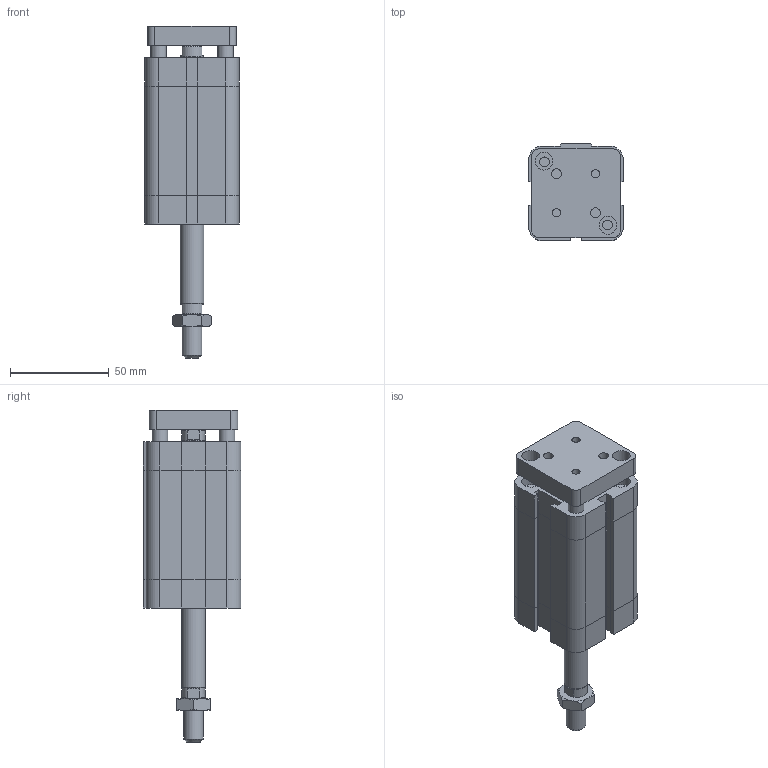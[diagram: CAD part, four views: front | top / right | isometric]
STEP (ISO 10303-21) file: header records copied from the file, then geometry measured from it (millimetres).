
FILE_DESCRIPTION((''),'2;1');
FILE_NAME('I:\Area Tecnica\Disegni\VARIE-3D\Componenti\EUROPE\15##_###_####_09_#\1581_32_0040_09_1.iam.stp','2009-04-20T15:44:21',(''),(''),'Autodesk Inventor 2009','Autodesk Inventor 2009','');
FILE_SCHEMA(('AUTOMOTIVE_DESIGN { 1 0 10303 214 1 1 1 1 }'));
Length unit declared in the file: millimetre
Products named in the file (4): 1581_32_0040_09_1; 1581_32_0040_08_1_C; 1561_32_0040_09_1_SA; DBFM10
Assembly tree (3 placements, depth 2):
  1581_32_0040_09_1
    1581_32_0040_08_1_C
    1561_32_0040_09_1_SA
    DBFM10
Bounding box: 48 x 49.5 x 168.5 mm (x, y, z)
Volume: 203530.1 mm3; surface area: 46681.4 mm2
Topology: 3 solids, 3 shells, 209 faces, 470 edges, 287 vertices
Faces by surface type: plane 120, bspline 45, cylinder 23, cone 21
Full cylindrical faces by diameter (mm): 8 x2, 8.8 x1, 10 x1, 11.7 x2, 12 x1
Entity records: 5963 total; most frequent: CARTESIAN_POINT 1453, DIRECTION 838, ORIENTED_EDGE 834, EDGE_CURVE 417, AXIS2_PLACEMENT_3D 282, EDGE_LOOP 282, VECTOR 274, LINE 274
